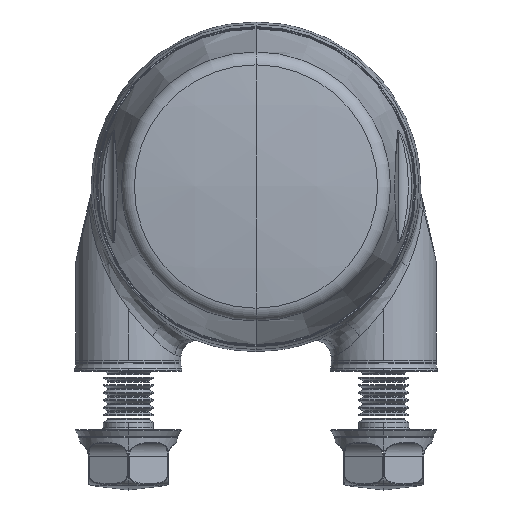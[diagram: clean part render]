
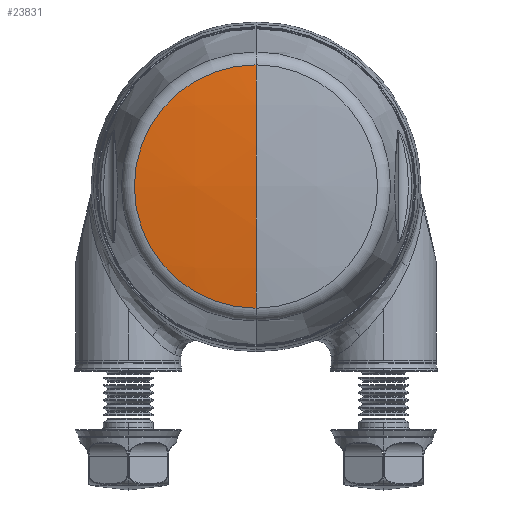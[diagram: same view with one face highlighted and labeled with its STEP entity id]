
A CAD part, top view. The second image highlights one B-rep face of the part: STEP entity #23831.
In plain terms, the highlighted spherical face has radius 200 mm.
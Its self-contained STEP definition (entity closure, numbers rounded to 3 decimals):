
#793 = CARTESIAN_POINT ( 'NONE',  ( 0., 0., 40.272 ) ) ;
#1189 = AXIS2_PLACEMENT_3D ( 'NONE', #793, #17966, #2793 ) ;
#1970 = VERTEX_POINT ( 'NONE', #12574 ) ;
#2034 = SPHERICAL_SURFACE ( 'NONE', #14740, 200. ) ;
#2793 = DIRECTION ( 'NONE',  ( 0., 1., 0. ) ) ;
#3667 = CARTESIAN_POINT ( 'NONE',  ( 0., 0., 41.751 ) ) ;
#3695 = DIRECTION ( 'NONE',  ( 1., 0., 0. ) ) ;
#3931 = DIRECTION ( 'NONE',  ( 0., 1., 0. ) ) ;
#3962 = EDGE_CURVE ( 'NONE', #9279, #1970, #17599, .T. ) ;
#7612 = DIRECTION ( 'NONE',  ( -1., 0., 0. ) ) ;
#7749 = CARTESIAN_POINT ( 'NONE',  ( 0., 0., -158.249 ) ) ;
#9279 = VERTEX_POINT ( 'NONE', #3667 ) ;
#9853 = EDGE_CURVE ( 'NONE', #9279, #18241, #19322, .T. ) ;
#11741 = DIRECTION ( 'NONE',  ( 0., -1., 0. ) ) ;
#12574 = CARTESIAN_POINT ( 'NONE',  ( 0., -24.283, 40.272 ) ) ;
#14572 = CARTESIAN_POINT ( 'NONE',  ( 0., 24.283, 40.272 ) ) ;
#14740 = AXIS2_PLACEMENT_3D ( 'NONE', #7749, #23382, #11741 ) ;
#14878 = ORIENTED_EDGE ( 'NONE', *, *, #21021, .T. ) ;
#14971 = AXIS2_PLACEMENT_3D ( 'NONE', #22872, #7612, #19275 ) ;
#15197 = EDGE_LOOP ( 'NONE', ( #17668, #19515, #14878 ) ) ;
#15262 = CARTESIAN_POINT ( 'NONE',  ( 0., 0., -158.249 ) ) ;
#17599 = CIRCLE ( 'NONE', #21951, 200. ) ;
#17668 = ORIENTED_EDGE ( 'NONE', *, *, #3962, .F. ) ;
#17966 = DIRECTION ( 'NONE',  ( 0., 0., 1. ) ) ;
#18241 = VERTEX_POINT ( 'NONE', #14572 ) ;
#19168 = FACE_OUTER_BOUND ( 'NONE', #15197, .T. ) ;
#19275 = DIRECTION ( 'NONE',  ( 0., -1., 0. ) ) ;
#19322 = CIRCLE ( 'NONE', #14971, 200. ) ;
#19515 = ORIENTED_EDGE ( 'NONE', *, *, #9853, .T. ) ;
#21021 = EDGE_CURVE ( 'NONE', #18241, #1970, #21023, .T. ) ;
#21023 = CIRCLE ( 'NONE', #1189, 24.283 ) ;
#21951 = AXIS2_PLACEMENT_3D ( 'NONE', #15262, #3695, #3931 ) ;
#22872 = CARTESIAN_POINT ( 'NONE',  ( 0., 0., -158.249 ) ) ;
#23382 = DIRECTION ( 'NONE',  ( -1., 0., 0. ) ) ;
#23831 = ADVANCED_FACE ( 'NONE', ( #19168 ), #2034, .T. ) ;
